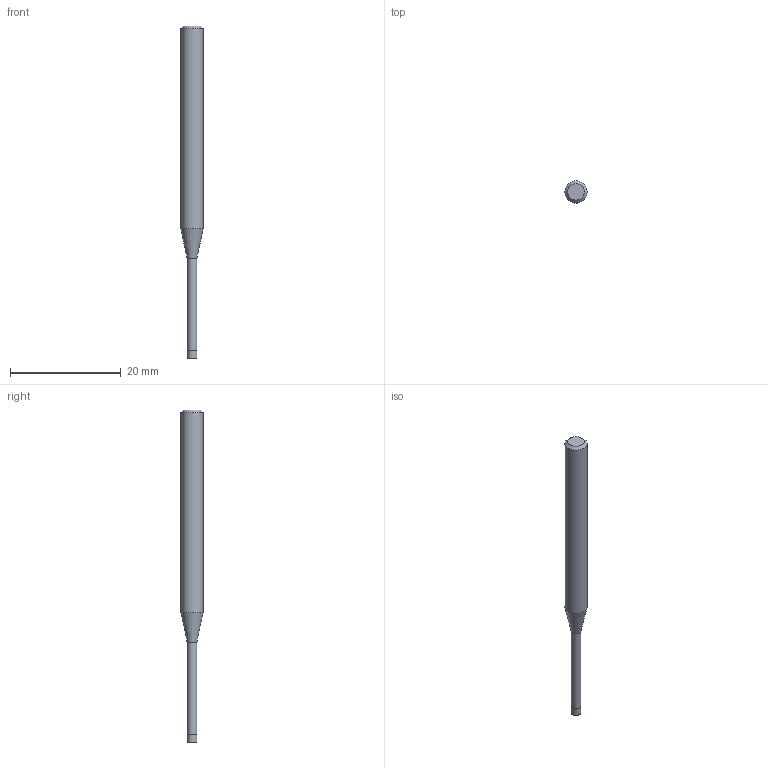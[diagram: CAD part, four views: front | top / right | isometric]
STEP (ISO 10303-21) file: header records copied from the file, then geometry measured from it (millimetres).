
FILE_DESCRIPTION((''),'2;1');
FILE_NAME('C:\Users\nsx150\AppData\Local\Temp\Mastercam 2021\3SYKECWX22\TEMP.step','2021-04-22T09:39:14',(''),(''),'STEP Write','Mastercam 2021 ... CNC Software, Inc.','');
FILE_SCHEMA(('AUTOMOTIVE_DESIGN'));
Length unit declared in the file: millimetre
Products named in the file (1): None
Bounding box: 4 x 4 x 60 mm (x, y, z)
Volume: 538.7 mm3; surface area: 624.7 mm2
Topology: 2 solids, 2 shells, 9 faces, 12 edges, 7 vertices
Faces by surface type: plane 4, cylinder 3, cone 2
Full cylindrical faces by diameter (mm): 1.74 x1, 1.8 x1, 4 x1
Entity records: 211 total; most frequent: DIRECTION 36, CARTESIAN_POINT 25, AXIS2_PLACEMENT_3D 18, ORIENTED_EDGE 14, EDGE_LOOP 14, STYLED_ITEM 12, ADVANCED_FACE 9, FACE_BOUND 8
